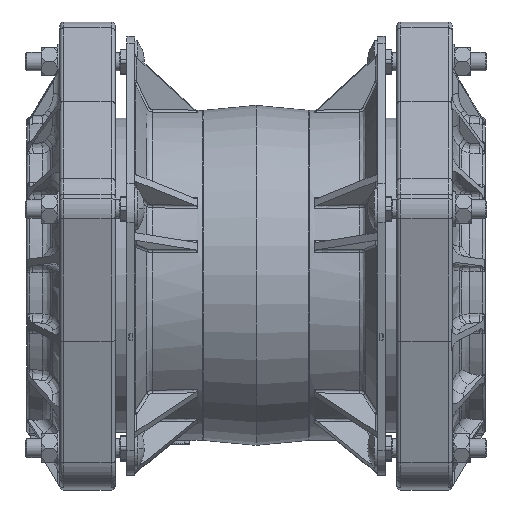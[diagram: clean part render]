
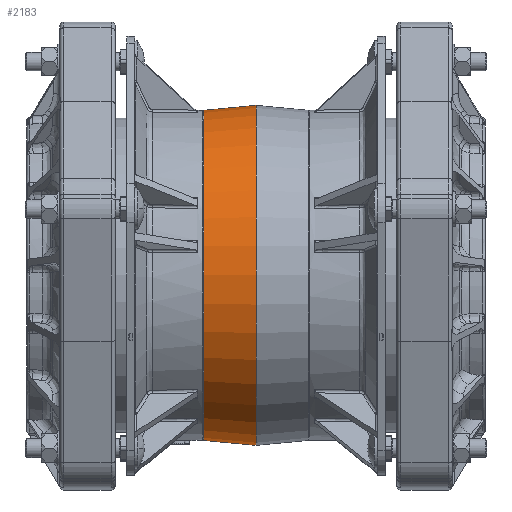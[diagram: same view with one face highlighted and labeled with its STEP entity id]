
A CAD part, top view. The second image highlights one B-rep face of the part: STEP entity #2183.
In plain terms, the highlighted conical face has half-angle 5.363 degrees and reference radius 142.082 mm.
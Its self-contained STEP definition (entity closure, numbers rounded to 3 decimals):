
#2152=CARTESIAN_POINT('',(-154.447,0.,-140.606));
#2153=VERTEX_POINT('',#2152);
#2154=CARTESIAN_POINT('',(-154.447,0.0,0.0));
#2155=DIRECTION('',(-1.0,0.0,0.0));
#2156=DIRECTION('',(0.0,-1.0,0.0));
#2157=AXIS2_PLACEMENT_3D('',#2154,#2155,#2156);
#2158=CIRCLE('',#2157,140.606);
#2159=EDGE_CURVE('',#2153,#2153,#2158,.T.);
#2164=CARTESIAN_POINT('',(-138.723,0.0,0.0));
#2165=DIRECTION('',(1.0,0.0,0.0));
#2166=DIRECTION('',(0.0,-1.0,0.0));
#2167=AXIS2_PLACEMENT_3D('',#2164,#2165,#2166);
#2168=CONICAL_SURFACE('',#2167,142.082,5.363);
#2169=CARTESIAN_POINT('',(-110.0,144.779,0.));
#2170=VERTEX_POINT('',#2169);
#2171=CARTESIAN_POINT('',(-110.0,0.0,0.0));
#2172=DIRECTION('',(-1.0,0.0,0.0));
#2173=DIRECTION('',(0.0,-1.0,0.0));
#2174=AXIS2_PLACEMENT_3D('',#2171,#2172,#2173);
#2175=CIRCLE('',#2174,144.779);
#2176=EDGE_CURVE('',#2170,#2170,#2175,.T.);
#2177=ORIENTED_EDGE('',*,*,#2176,.T.);
#2178=EDGE_LOOP('',(#2177));
#2179=FACE_OUTER_BOUND('',#2178,.T.);
#2180=ORIENTED_EDGE('',*,*,#2159,.F.);
#2181=EDGE_LOOP('',(#2180));
#2182=FACE_BOUND('',#2181,.T.);
#2183=ADVANCED_FACE('',(#2179,#2182),#2168,.T.);
